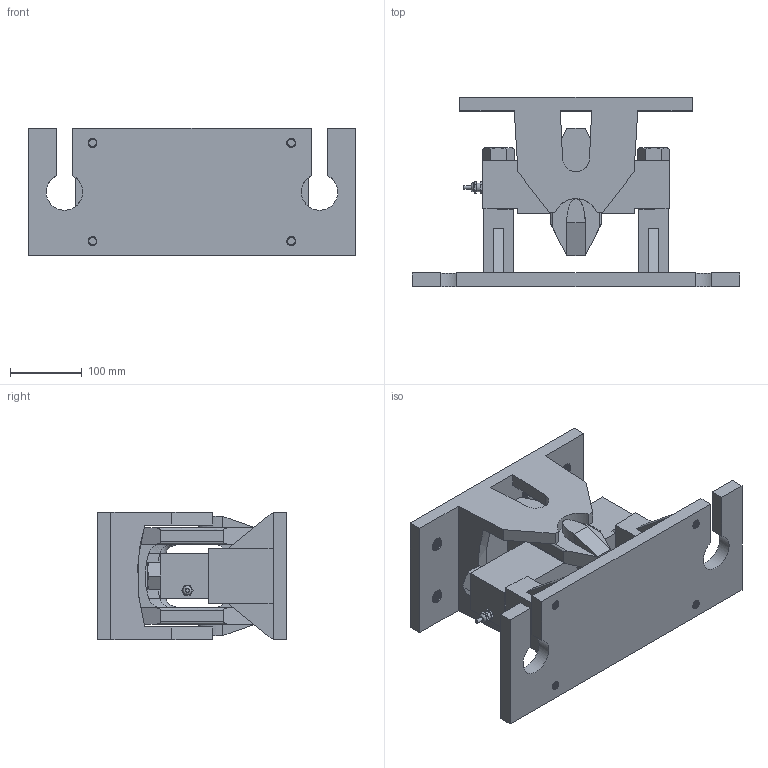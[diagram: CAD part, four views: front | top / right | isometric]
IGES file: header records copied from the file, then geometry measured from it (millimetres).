
Global section: file name: 102BHM1-(50-75)klb v4; native system: unknown; preprocessor: unknown; author: unknown; organization: unknown; date: 20200402.123230; units: millimetre
Bounding box: 457.2 x 264 x 178 mm (x, y, z)
Volume: 5816505.5 mm3; surface area: 699685.5 mm2
Topology: 7 solids, 7 shells, 370 faces, 982 edges, 641 vertices
Faces by surface type: bspline 370
